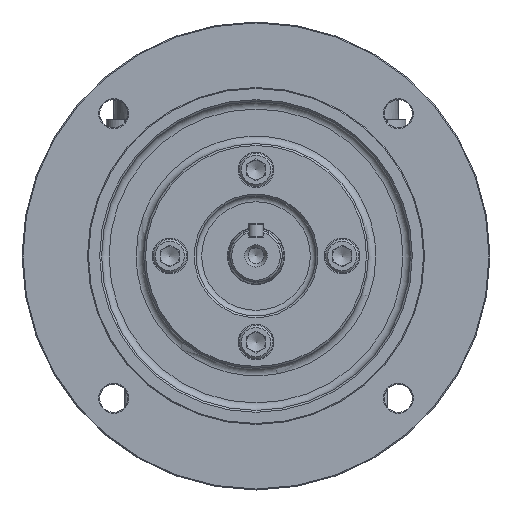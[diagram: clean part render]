
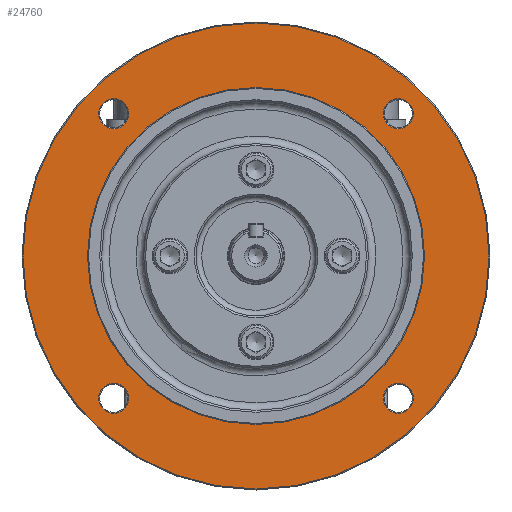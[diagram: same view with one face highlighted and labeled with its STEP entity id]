
A CAD part, top view. The second image highlights one B-rep face of the part: STEP entity #24760.
In plain terms, the highlighted planar face has unit normal (0, 0, 1).
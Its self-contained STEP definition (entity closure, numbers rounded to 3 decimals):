
#1183 = EDGE_LOOP ( 'NONE', ( #1958 ) ) ;
#1919 = CARTESIAN_POINT ( 'NONE',  ( -76.014, 83.014, 125.75 ) ) ;
#1958 = ORIENTED_EDGE ( 'NONE', *, *, #36576, .T. ) ;
#2327 = EDGE_LOOP ( 'NONE', ( #16983 ) ) ;
#2630 = DIRECTION ( 'NONE',  ( 0., 0., -1. ) ) ;
#2657 = CARTESIAN_POINT ( 'NONE',  ( 84.014, -69.014, 125.75 ) ) ;
#3128 = VERTEX_POINT ( 'NONE', #10733 ) ;
#5616 = AXIS2_PLACEMENT_3D ( 'NONE', #37504, #8084, #19296 ) ;
#5840 = CARTESIAN_POINT ( 'NONE',  ( 76.014, 83.014, 125.75 ) ) ;
#6420 = CARTESIAN_POINT ( 'NONE',  ( -76.014, -69.014, 125.75 ) ) ;
#8084 = DIRECTION ( 'NONE',  ( 0., 0., -1. ) ) ;
#8333 = VERTEX_POINT ( 'NONE', #16865 ) ;
#9411 = AXIS2_PLACEMENT_3D ( 'NONE', #20718, #42048, #41572 ) ;
#10733 = CARTESIAN_POINT ( 'NONE',  ( -124.5, 7., 125.75 ) ) ;
#11123 = ORIENTED_EDGE ( 'NONE', *, *, #12441, .T. ) ;
#11615 = CIRCLE ( 'NONE', #9411, 124.5 ) ;
#11780 = EDGE_CURVE ( 'NONE', #38968, #38968, #29770, .T. ) ;
#12441 = EDGE_CURVE ( 'NONE', #31414, #31414, #34405, .T. ) ;
#13735 = DIRECTION ( 'NONE',  ( 1., 0., 0. ) ) ;
#13802 = DIRECTION ( 'NONE',  ( 0., 0., -1. ) ) ;
#14266 = DIRECTION ( 'NONE',  ( 0., 0., 1. ) ) ;
#14919 = AXIS2_PLACEMENT_3D ( 'NONE', #46719, #14266, #25140 ) ;
#15290 = EDGE_CURVE ( 'NONE', #39443, #39443, #40600, .T. ) ;
#16865 = CARTESIAN_POINT ( 'NONE',  ( 0., 97., 125.75 ) ) ;
#16983 = ORIENTED_EDGE ( 'NONE', *, *, #15290, .T. ) ;
#18040 = FACE_BOUND ( 'NONE', #1183, .T. ) ;
#19296 = DIRECTION ( 'NONE',  ( 0., 1., 0. ) ) ;
#19912 = DIRECTION ( 'NONE',  ( 0., 0., -1. ) ) ;
#20079 = CIRCLE ( 'NONE', #5616, 90. ) ;
#20664 = AXIS2_PLACEMENT_3D ( 'NONE', #5840, #19912, #13735 ) ;
#20718 = CARTESIAN_POINT ( 'NONE',  ( 0., 7., 125.75 ) ) ;
#20943 = DIRECTION ( 'NONE',  ( 1., 0., 0. ) ) ;
#21117 = CARTESIAN_POINT ( 'NONE',  ( 76.014, -69.014, 125.75 ) ) ;
#21803 = FACE_BOUND ( 'NONE', #29715, .T. ) ;
#22119 = CARTESIAN_POINT ( 'NONE',  ( -68.014, -69.014, 125.75 ) ) ;
#23519 = EDGE_CURVE ( 'NONE', #3128, #3128, #11615, .T. ) ;
#24760 = ADVANCED_FACE ( 'NONE', ( #24908, #18040, #39370, #21803, #28936, #43387 ), #35796, .T. ) ;
#24908 = FACE_OUTER_BOUND ( 'NONE', #43839, .T. ) ;
#25140 = DIRECTION ( 'NONE',  ( 0., -1., 0. ) ) ;
#28936 = FACE_BOUND ( 'NONE', #2327, .T. ) ;
#29715 = EDGE_LOOP ( 'NONE', ( #11123 ) ) ;
#29770 = CIRCLE ( 'NONE', #20664, 8. ) ;
#29857 = ORIENTED_EDGE ( 'NONE', *, *, #37143, .T. ) ;
#29898 = AXIS2_PLACEMENT_3D ( 'NONE', #21117, #13802, #41989 ) ;
#31414 = VERTEX_POINT ( 'NONE', #2657 ) ;
#32968 = AXIS2_PLACEMENT_3D ( 'NONE', #1919, #45378, #37779 ) ;
#34405 = CIRCLE ( 'NONE', #29898, 8. ) ;
#35796 = PLANE ( 'NONE',  #14919 ) ;
#36002 = ORIENTED_EDGE ( 'NONE', *, *, #23519, .F. ) ;
#36576 = EDGE_CURVE ( 'NONE', #8333, #8333, #20079, .T. ) ;
#37143 = EDGE_CURVE ( 'NONE', #43134, #43134, #45844, .T. ) ;
#37504 = CARTESIAN_POINT ( 'NONE',  ( 0., 7., 125.75 ) ) ;
#37779 = DIRECTION ( 'NONE',  ( 1., 0., 0. ) ) ;
#38743 = CARTESIAN_POINT ( 'NONE',  ( 84.014, 83.014, 125.75 ) ) ;
#38861 = CARTESIAN_POINT ( 'NONE',  ( -68.014, 83.014, 125.75 ) ) ;
#38968 = VERTEX_POINT ( 'NONE', #38743 ) ;
#39370 = FACE_BOUND ( 'NONE', #44149, .T. ) ;
#39443 = VERTEX_POINT ( 'NONE', #22119 ) ;
#40600 = CIRCLE ( 'NONE', #42890, 8. ) ;
#41572 = DIRECTION ( 'NONE',  ( -1., 0., 0. ) ) ;
#41989 = DIRECTION ( 'NONE',  ( 1., 0., 0. ) ) ;
#42048 = DIRECTION ( 'NONE',  ( 0., 0., -1. ) ) ;
#42840 = EDGE_LOOP ( 'NONE', ( #29857 ) ) ;
#42890 = AXIS2_PLACEMENT_3D ( 'NONE', #6420, #2630, #20943 ) ;
#43134 = VERTEX_POINT ( 'NONE', #38861 ) ;
#43387 = FACE_BOUND ( 'NONE', #42840, .T. ) ;
#43839 = EDGE_LOOP ( 'NONE', ( #36002 ) ) ;
#44149 = EDGE_LOOP ( 'NONE', ( #46881 ) ) ;
#45378 = DIRECTION ( 'NONE',  ( 0., 0., -1. ) ) ;
#45844 = CIRCLE ( 'NONE', #32968, 8. ) ;
#46719 = CARTESIAN_POINT ( 'NONE',  ( 0., 97., 125.75 ) ) ;
#46881 = ORIENTED_EDGE ( 'NONE', *, *, #11780, .T. ) ;
